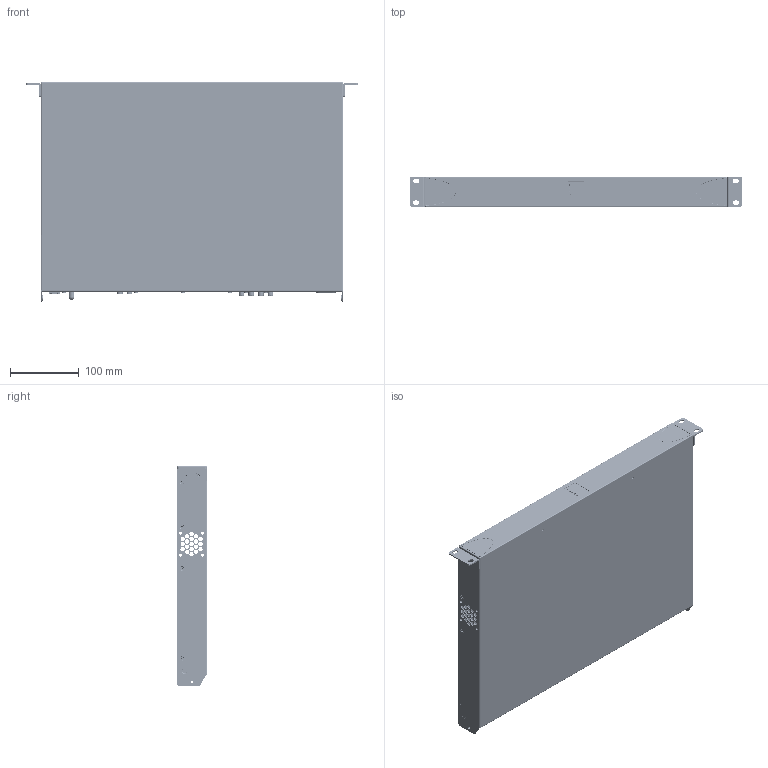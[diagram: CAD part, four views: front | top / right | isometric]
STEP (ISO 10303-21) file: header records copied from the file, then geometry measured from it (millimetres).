
FILE_DESCRIPTION (( 'STEP AP214' ), '1' );
FILE_NAME ('Blaze PowerZone Connect 508D Amplifier.STEP', '2025-01-14T11:54:15', ( '' ), ( '' ), 'SwSTEP 2.0', 'SolidWorks 2024', '' );
FILE_SCHEMA (( 'AUTOMOTIVE_DESIGN' ));
Length unit declared in the file: millimetre
Products named in the file (2): for export_defeature^900-029-13; Blaze PowerZone Connect 508D Amplifier
Assembly tree (1 placements, depth 2):
  Blaze PowerZone Connect 508D Amplifier
    for export_defeature^900-029-13
Bounding box: 483 x 44 x 320 mm (x, y, z)
Surface area: 765302.2 mm2 (no closed solid volume)
Topology: 0 solids, 159 shells, 10652 faces, 27676 edges, 17712 vertices
Faces by surface type: plane 7030, cylinder 2481, cone 580, torus 243, bspline 242, sphere 76
Entity records: 337473 total; most frequent: CARTESIAN_POINT 73543, ORIENTED_EDGE 55071, DIRECTION 52780, EDGE_CURVE 27582, LINE 20300, VECTOR 20300, VERTEX_POINT 17708, AXIS2_PLACEMENT_3D 16240
